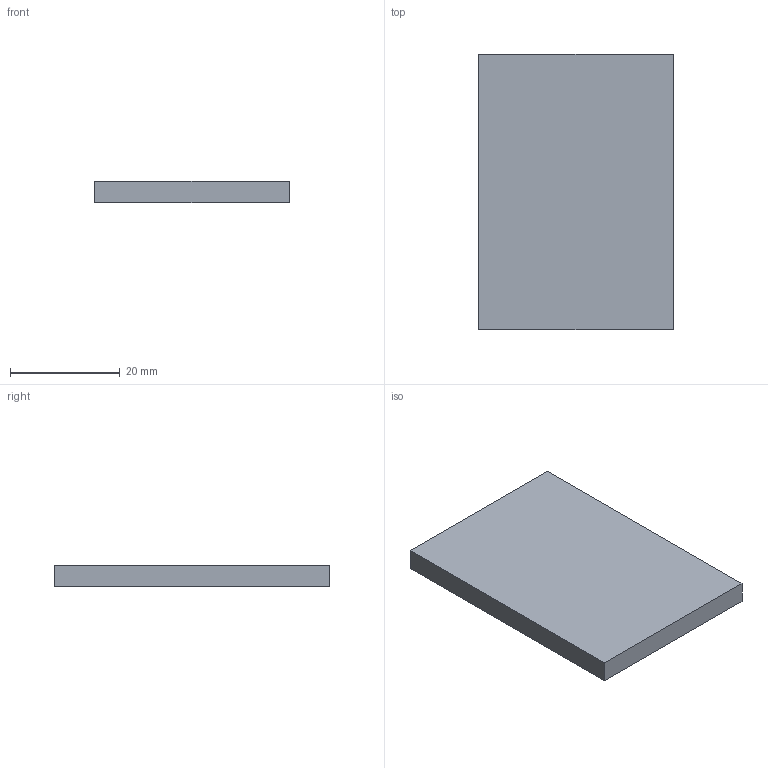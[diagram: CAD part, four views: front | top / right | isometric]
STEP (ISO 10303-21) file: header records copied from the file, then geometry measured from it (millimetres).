
FILE_DESCRIPTION(/* description */ (''),/* implementation_level */ '2;1');
FILE_NAME(/* name */ 'PCB.step',/* time_stamp */ '2026-06-27T03:52:21+02:00',/* author */ (''),/* organization */ (''),/* preprocessor_version */ 'ST-DEVELOPER v20.1',/* originating_system */ 'Autodesk Translation Framework v15.8.0.0',/* authorisation */ '');
FILE_SCHEMA (('AUTOMOTIVE_DESIGN { 1 0 10303 214 3 1 1 }'));
Length unit declared in the file: millimetre
Products named in the file (2): 2026-06-27-03-52-21-455; 2026-06-27-03-52-21-455_1
Assembly tree (1 placements, depth 2):
  2026-06-27-03-52-21-455
    2026-06-27-03-52-21-455_1
Bounding box: 35.5 x 50.25 x 4 mm (x, y, z)
Volume: 7135.5 mm3; surface area: 4253.8 mm2
Topology: 1 solids, 1 shells, 6 faces, 12 edges, 8 vertices
Faces by surface type: plane 6
Entity records: 209 total; most frequent: DIRECTION 30, CARTESIAN_POINT 29, ORIENTED_EDGE 24, LINE 12, VECTOR 12, EDGE_CURVE 12, AXIS2_PLACEMENT_3D 9, VERTEX_POINT 8
